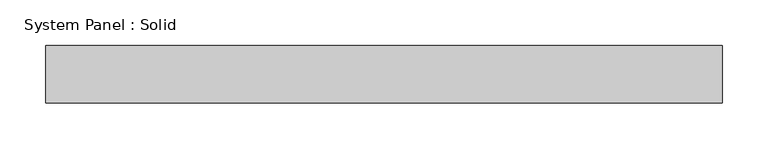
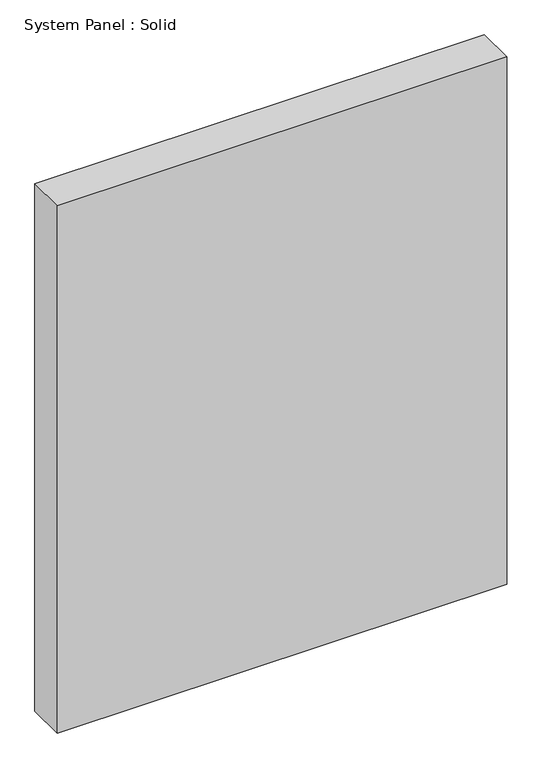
"""IFC4 building model written with IfcOpenShell, lengths in millimetres: plate geometry, System Panel : Solid."""

import ifcopenshell
import ifcopenshell.guid

model = None  # the IFC model being written
_history = None  # IfcOwnerHistory: only IFC2X3 demands one
_inside = {}  # id of a spatial element -> (the spatial element, [elements in it])
_under = {}  # id of a project, library or spatial element -> (it, [spatial elements below it])
_declared = {}  # id of a project -> (the project, [libraries it declares])
_typed = {}  # id of a type object -> (the type object, [elements of that type])
_made_of = {}  # id of a material, layer set ... -> (it, [elements and type objects made of it])


def new_model(schema):
    """Start an empty IFC model of exactly this schema.

    Asked for "IFC4X3", IfcOpenShell would pick the latest addendum, in which some entities
    have other attributes; the version numbers below select the first issue.
    IFC2X3 requires an IfcOwnerHistory on every rooted entity: one is made here for all.
    """
    global model, _history
    if schema == "IFC4X3":
        model = ifcopenshell.file(schema_version=(4, 3, 0, 0))
    else:
        model = ifcopenshell.file(schema=schema)
    _inside.clear()
    _under.clear()
    _declared.clear()
    _typed.clear()
    _made_of.clear()
    _history = None
    if model.schema == "IFC2X3":
        org = make("IfcOrganization", Name="unknown")
        user = make(
            "IfcPersonAndOrganization",
            ThePerson=make("IfcPerson", FamilyName="unknown"),
            TheOrganization=org,
        )
        app = make(
            "IfcApplication",
            ApplicationDeveloper=org,
            Version="unknown",
            ApplicationFullName="unknown",
            ApplicationIdentifier="unknown",
        )
        _history = make(
            "IfcOwnerHistory",
            OwningUser=user,
            OwningApplication=app,
            ChangeAction="ADDED",
            CreationDate=0,
        )
    return model


def make(cls, **values):
    """One entity of the class cls with the attributes given. An attribute that is None is left unset."""
    return model.create_entity(
        cls, **{name: value for name, value in values.items() if value is not None}
    )


def rooted(cls, **values):
    """An entity with a GlobalId (a new one), such as an element, a storey or a relation."""
    return make(cls, GlobalId=ifcopenshell.guid.new(), OwnerHistory=_history, **values)


def si_unit(unit_type, name, prefix=None):
    """IfcSIUnit, for example si_unit("LENGTHUNIT", "METRE", prefix="MILLI")."""
    return make("IfcSIUnit", UnitType=unit_type, Prefix=prefix, Name=name)


def assignment(units):
    """IfcUnitAssignment: the units of a project."""
    return None if units is None else make("IfcUnitAssignment", Units=units)


def point(xyz):
    """IfcCartesianPoint."""
    return None if xyz is None else make("IfcCartesianPoint", Coordinates=xyz)


def direction(xyz):
    """IfcDirection."""
    return None if xyz is None else make("IfcDirection", DirectionRatios=xyz)


def frame(location, z_axis=None, x_axis=None):
    """IfcAxis2Placement3D, a coordinate frame: its origin and axes. An axis left out is left unset."""
    return make(
        "IfcAxis2Placement3D",
        Location=point(location),
        Axis=direction(z_axis),
        RefDirection=direction(x_axis),
    )


def origin():
    """The frame at (0, 0, 0) with its axes left unset."""
    return frame((0.0, 0.0, 0.0))


def origin_with_axes():
    """The frame at (0, 0, 0) with the z axis (0, 0, 1) and the x axis (1, 0, 0) written out."""
    return frame((0.0, 0.0, 0.0), z_axis=(0.0, 0.0, 1.0), x_axis=(1.0, 0.0, 0.0))


def place(relative_to, where):
    """IfcLocalPlacement: puts the frame where relative to a parent placement (None: the world)."""
    return make(
        "IfcLocalPlacement", PlacementRelTo=relative_to, RelativePlacement=where
    )


def context(
    kind, dimensions, precision=None, world=None, true_north=None, identifier=None
):
    """IfcGeometricRepresentationContext, for example the 3D "Model" context."""
    return make(
        "IfcGeometricRepresentationContext",
        ContextIdentifier=identifier,
        ContextType=kind,
        CoordinateSpaceDimension=dimensions,
        Precision=precision,
        WorldCoordinateSystem=world,
        TrueNorth=true_north,
    )


def project(units=None, contexts=None):
    """IfcProject with its units and contexts."""
    return rooted(
        "IfcProject",
        Name="project",
        RepresentationContexts=contexts,
        UnitsInContext=assignment(units),
    )


def spatial(cls, under=None, at=None, **own):
    """A site, building, storey or space (cls), placed at a placement, below another one or the project."""
    s = rooted(cls, ObjectPlacement=at, **own)
    if under is not None:
        _under.setdefault(under.id(), (under, []))[1].append(s)
    return s


def polyline(points):
    """IfcPolyline through the points."""
    return make("IfcPolyline", Points=[point(p) for p in points])


def outline(outer, holes=None, kind="AREA"):
    """IfcArbitraryClosedProfileDef: a profile drawn as a closed curve; with holes, ...WithVoids."""
    if holes is None:
        return make("IfcArbitraryClosedProfileDef", ProfileType=kind, OuterCurve=outer)
    return make(
        "IfcArbitraryProfileDefWithVoids",
        ProfileType=kind,
        OuterCurve=outer,
        InnerCurves=holes,
    )


def extrude(swept, where, along, depth):
    """IfcExtrudedAreaSolid: the profile swept, set in the frame where, extruded along a direction by depth."""
    return make(
        "IfcExtrudedAreaSolid",
        SweptArea=swept,
        Position=where,
        ExtrudedDirection=direction(along),
        Depth=depth,
    )


def shape(context_of_items, identifier, shape_type, items):
    """IfcShapeRepresentation: the items that make up one representation, for example the "Body"."""
    return make(
        "IfcShapeRepresentation",
        ContextOfItems=context_of_items,
        RepresentationIdentifier=identifier,
        RepresentationType=shape_type,
        Items=items,
    )


def source(mapping_origin, context_of_items, identifier, shape_type, items):
    """IfcRepresentationMap: a shape defined once, which mapped items show again and again."""
    return make(
        "IfcRepresentationMap",
        MappingOrigin=mapping_origin,
        MappedRepresentation=shape(context_of_items, identifier, shape_type, items),
    )


def transform(
    local_origin,
    x_axis=None,
    y_axis=None,
    z_axis=None,
    scale=None,
    scale2=None,
    scale3=None,
    uniform=True,
):
    """IfcCartesianTransformationOperator3D, or its non-uniform kind. x_axis, y_axis, z_axis: its Axis1, 2, 3."""
    if uniform:
        return make(
            "IfcCartesianTransformationOperator3D",
            Axis1=direction(x_axis),
            Axis2=direction(y_axis),
            LocalOrigin=point(local_origin),
            Scale=scale,
            Axis3=direction(z_axis),
        )
    return make(
        "IfcCartesianTransformationOperator3DnonUniform",
        Axis1=direction(x_axis),
        Axis2=direction(y_axis),
        LocalOrigin=point(local_origin),
        Scale=scale,
        Axis3=direction(z_axis),
        Scale2=scale2,
        Scale3=scale3,
    )


def mapped(mapping_source, mapping_target):
    """IfcMappedItem: shows the shape of a source again, moved by a transform."""
    return make(
        "IfcMappedItem", MappingSource=mapping_source, MappingTarget=mapping_target
    )


def made_of(thing, what):
    """Note that an element or type object is made of a material, layer set ...; save() writes the relation."""
    if what is not None:
        _made_of.setdefault(what.id(), (what, []))[1].append(thing)
    return thing


def element(
    cls,
    number,
    at=None,
    inside=None,
    cuts=None,
    type_object=None,
    material=None,
    context=None,
    identifier="Body",
    shape_type=None,
    held_by="IfcProductDefinitionShape",
    body=None,
    shapes=None,
    **own,
):
    """One element of the class cls, such as IfcWall. Its Tag is "e" and its number.

    at: its placement. inside: the storey or other place that contains it. cuts: it is an
    opening in that element (IfcRelVoidsElement). A single representation is given by context,
    identifier, shape_type and body (its items); several are given by shapes. held_by: the class
    of the entity that holds the representations. save() writes the other relations.
    """
    e = rooted(cls, Tag="e%d" % number, ObjectPlacement=at, **own)
    if body is not None:
        shapes = [shape(context, identifier, shape_type, body)]
    if shapes is not None:
        e.Representation = make(held_by, Representations=shapes)
    if inside is not None:
        _inside.setdefault(inside.id(), (inside, []))[1].append(e)
    if cuts is not None:
        rooted(
            "IfcRelVoidsElement", RelatingBuildingElement=cuts, RelatedOpeningElement=e
        )
    if type_object is not None:
        _typed.setdefault(type_object.id(), (type_object, []))[1].append(e)
    return made_of(e, material)


def aggregate(whole, parts):
    """IfcRelAggregates: a whole, such as a stair, and the parts it consists of."""
    return rooted("IfcRelAggregates", RelatingObject=whole, RelatedObjects=parts)


def save(model, path):
    """Write the relations noted so far, then the file.

    IfcRelAggregates (storeys below a building ...), IfcRelContainedInSpatialStructure (elements
    in a storey), IfcRelDefinesByType, IfcRelAssociatesMaterial and IfcRelDeclares: one each for
    every whole, place, type object, material and project.
    """
    for whole, parts in _under.values():
        aggregate(whole, parts)
    for where, things in _inside.values():
        rooted(
            "IfcRelContainedInSpatialStructure",
            RelatedElements=things,
            RelatingStructure=where,
        )
    for kind, things in _typed.values():
        rooted("IfcRelDefinesByType", RelatedObjects=things, RelatingType=kind)
    for what, things in _made_of.values():
        rooted("IfcRelAssociatesMaterial", RelatedObjects=things, RelatingMaterial=what)
    for by, libraries in _declared.values():
        rooted("IfcRelDeclares", RelatingContext=by, RelatedDefinitions=libraries)
    model.write(path)


def system_panel_solid_86eb1eeb(model_context):
    return source(origin(), model_context, "Body", "SweptSolid", [
        extrude(outline(polyline([(371.2456567, -19.05), (-371.2456567, -19.05), (-371.2456567, 44.45), (371.2456567, 44.45), (371.2456567, -19.05)])), origin_with_axes(), (0.0, 0.0, 1.0), 920.75),
    ])


if __name__ == "__main__":
    model = new_model("IFC4")
    model_context = context("Model", 3, world=origin())
    ifc_project = project(units=[si_unit("LENGTHUNIT", "METRE", prefix="MILLI")], contexts=[model_context])
    site = spatial("IfcSite", under=ifc_project)
    building = spatial("IfcBuilding", under=site)
    placement = place(None, origin())
    system_panel_solid_shape = system_panel_solid_86eb1eeb(model_context)
    element("IfcPlate", 1, ObjectType="System Panel : Solid", at=placement, inside=building, context=model_context, shape_type="MappedRepresentation", body=[
        mapped(system_panel_solid_shape, transform((0.0, 0.0, 0.0), x_axis=(1.0, 0.0, 0.0), y_axis=(0.0, 1.0, 0.0), z_axis=(0.0, 0.0, 1.0))),
    ])
    save(model, "model.ifc")
